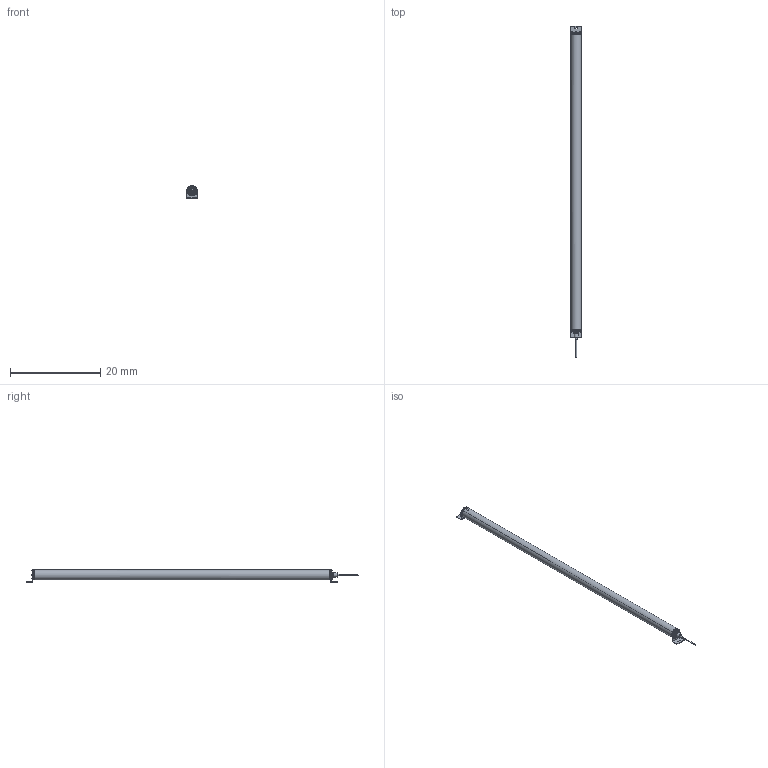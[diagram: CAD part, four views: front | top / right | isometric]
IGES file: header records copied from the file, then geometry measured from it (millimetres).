
Start section:  Autodesk DirectConnect version 7.0.27.0 ---- IGES version 5.3
Global section: file name: C:\ACADFILES\MG_PYLONS\CUSTOMER_FILES\MG-64-PYLON_3D_SMB_PT.iges; native system: Autodesk DirectConnect 7.0.27.0; preprocessor: 7.0.27.0; author: ENGINEERMAIN; organization: Unknown; date: 20150810.143132; units: millimetre
Bounding box: 2.26 x 73.44 x 2.75 mm (x, y, z)
Surface area: 1899 mm2 (no closed solid volume)
Topology: 0 solids, 0 shells, 784 faces, 4052 edges, 4055 vertices
Faces by surface type: bspline 784
